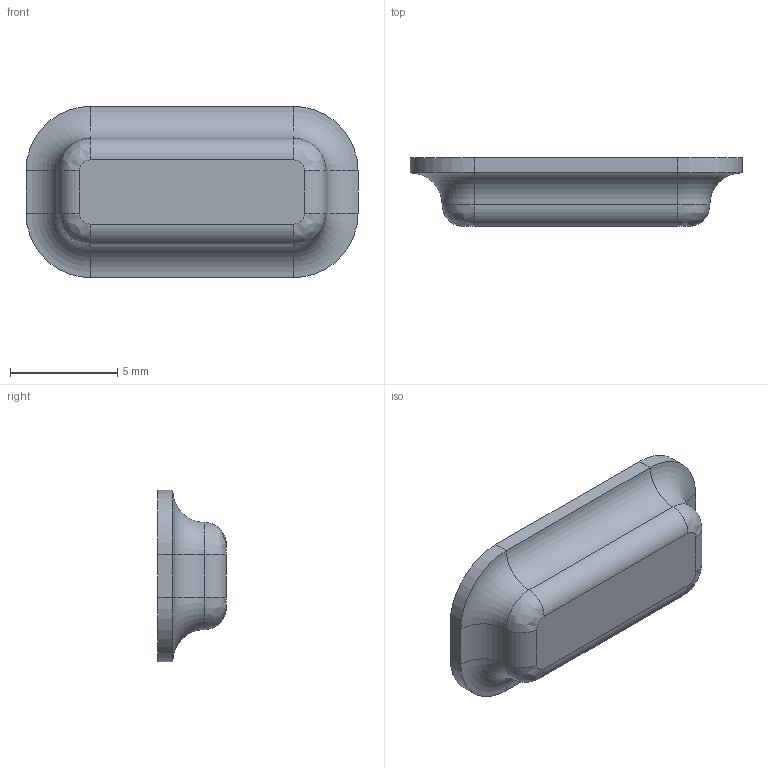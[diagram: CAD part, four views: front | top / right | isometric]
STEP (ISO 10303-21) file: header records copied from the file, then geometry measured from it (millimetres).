
FILE_DESCRIPTION(/* description */ (''),/* implementation_level */ '2;1');
FILE_NAME(/* name */ '',/* time_stamp */ '2025-02-03T16:29:41+03:00',/* author */ ('Артур'),/* organization */ (''),/* preprocessor_version */ 'ST-DEVELOPER v19.2',/* originating_system */ 'Autodesk Inventor 2023',/* authorisation */ '');
FILE_SCHEMA (('AUTOMOTIVE_DESIGN { 1 0 10303 214 3 1 1 }'));
Length unit declared in the file: millimetre
Products named in the file (1): Центральная пластина 
0,7мм 2.5мм ИТ1
Bounding box: 15.5 x 3.2 x 8 mm (x, y, z)
Volume: 112.5 mm3; surface area: 350.8 mm2
Topology: 1 solids, 1 shells, 42 faces, 88 edges, 48 vertices
Faces by surface type: cylinder 20, torus 12, plane 6, bspline 4
Entity records: 1222 total; most frequent: DIRECTION 222, CARTESIAN_POINT 211, ORIENTED_EDGE 176, AXIS2_PLACEMENT_3D 95, EDGE_CURVE 88, CIRCLE 56, VERTEX_POINT 48, STYLED_ITEM 43
